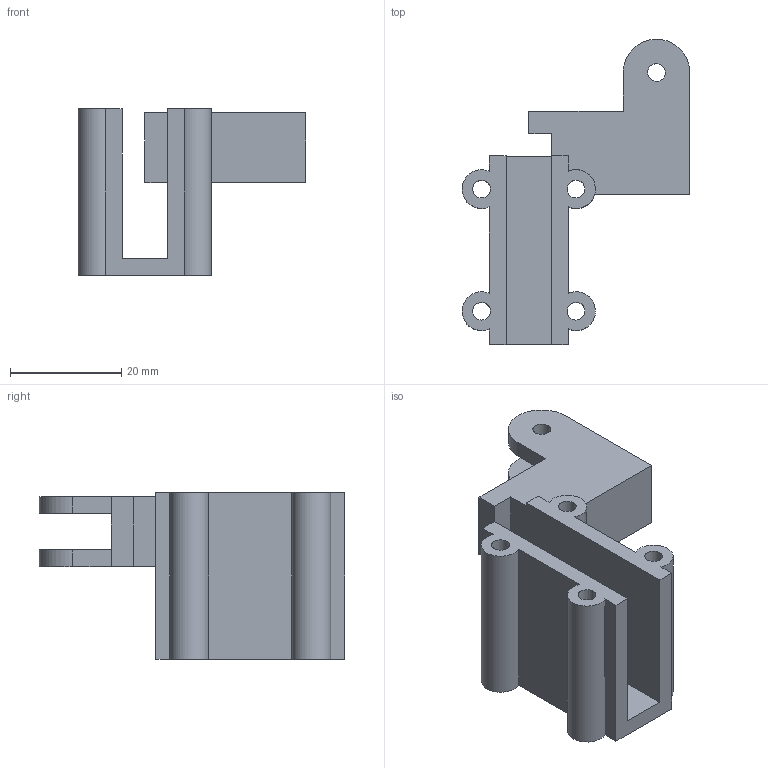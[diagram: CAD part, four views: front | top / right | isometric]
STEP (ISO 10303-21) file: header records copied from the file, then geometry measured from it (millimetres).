
FILE_DESCRIPTION(('STEP'), '1');
FILE_NAME('right-rail-saddle', '2026-11-05T01:20:35', (''), (''), 'Express 3.1.3.0', 'Express Tool', 'Unknown');
FILE_SCHEMA(('AUTOMOTIVE_DESIGN'));
Length unit declared in the file: millimetre
Products named in the file (1): right-rail-saddle
Bounding box: 41 x 54.99 x 30 mm (x, y, z)
Volume: 14630.5 mm3; surface area: 9685.7 mm2
Topology: 1 solids, 1 shells, 42 faces, 120 edges, 80 vertices
Faces by surface type: bspline 42
Entity records: 1654 total; most frequent: CARTESIAN_POINT 871, ORIENTED_EDGE 240, EDGE_CURVE 120, B_SPLINE_CURVE_WITH_KNOTS 88, VERTEX_POINT 80, EDGE_LOOP 54, ADVANCED_FACE 42, FACE_OUTER_BOUND 42
